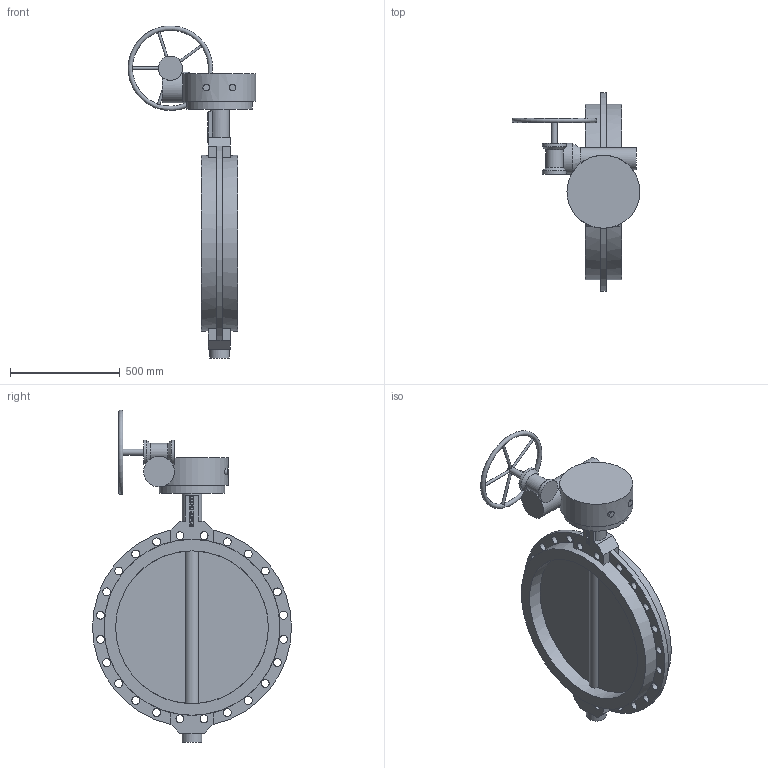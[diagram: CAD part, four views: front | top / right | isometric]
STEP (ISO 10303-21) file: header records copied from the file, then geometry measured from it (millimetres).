
FILE_DESCRIPTION(('STEP AP203'), '1');
FILE_NAME('Çàòâîð 017W.Z(÷óãóí) DN700 PN16 ðåäóêòîð', '', ('UNSPECIFIED'), ('UNSPECIFIED'), 'ASCON STEP Converter 1.6', 'ASCON Math Kernel', '');
FILE_SCHEMA(('CONFIG_CONTROL_DESIGN'));
Length unit declared in the file: millimetre
Bounding box: 581.49 x 905 x 1510.13 mm (x, y, z)
Volume: 56788302.6 mm3; surface area: 2763916.7 mm2
Topology: 1 solids, 1 shells, 689 faces, 1923 edges, 1279 vertices
Faces by surface type: cylinder 499, plane 186, cone 3, torus 1
Full cylindrical faces by diameter (mm): 12 x5, 14 x8, 18 x8, 28 x1, 30 x2, 36 x24, 90 x2, 100 x1, 110 x2, 140 x1, 300 x1, 332 x1, 695 x2, 800 x2
Entity records: 30725 total; most frequent: CARTESIAN_POINT 6648, DIRECTION 4210, ORIENTED_EDGE 3720, EDGE_CURVE 1860, AXIS2_PLACEMENT_3D 1690, VERTEX_POINT 1278, CIRCLE 1000, EDGE_LOOP 850
